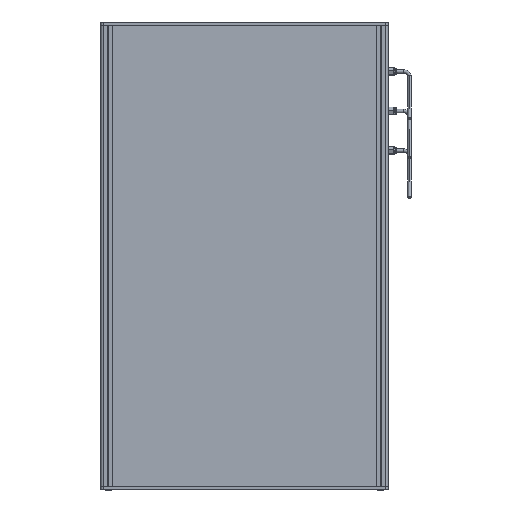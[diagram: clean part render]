
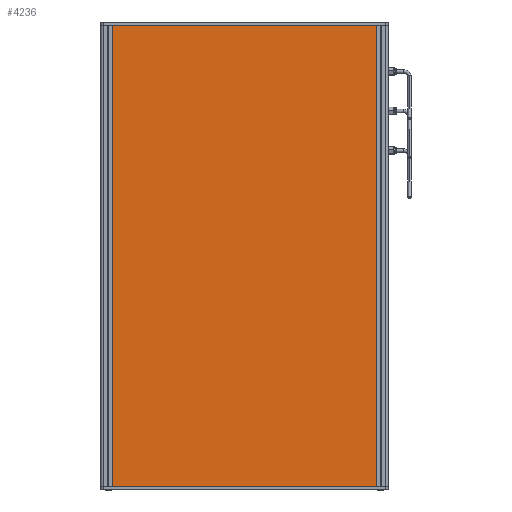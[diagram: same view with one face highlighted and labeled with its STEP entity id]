
A CAD part, front view. The second image highlights one B-rep face of the part: STEP entity #4236.
In plain terms, the highlighted planar face has unit normal (0, -1, 0) as drawn and (0, 0, 1) by its records, which use the part's own axes.
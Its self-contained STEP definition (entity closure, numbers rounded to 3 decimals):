
#188 = CARTESIAN_POINT ( 'NONE',  ( -9., 0., 0. ) ) ;
#1193 = DIRECTION ( 'NONE',  ( 0., -1., 0. ) ) ;
#1350 = ORIENTED_EDGE ( 'NONE', *, *, #5822, .T. ) ;
#1806 = CARTESIAN_POINT ( 'NONE',  ( -9., -700., 0. ) ) ;
#1836 = DIRECTION ( 'NONE',  ( 0., 0., -1. ) ) ;
#1908 = EDGE_CURVE ( 'NONE', #15172, #13936, #11813, .T. ) ;
#4132 = DIRECTION ( 'NONE',  ( 1., 0., 0. ) ) ;
#4236 = ADVANCED_FACE ( 'NONE', ( #8470 ), #7085, .F. ) ;
#4500 = CARTESIAN_POINT ( 'NONE',  ( -409., 0., 0. ) ) ;
#5668 = LINE ( 'NONE', #188, #11389 ) ;
#5822 = EDGE_CURVE ( 'NONE', #11176, #15172, #5668, .T. ) ;
#6781 = CARTESIAN_POINT ( 'NONE',  ( -9., -700., 0. ) ) ;
#7085 = PLANE ( 'NONE',  #15031 ) ;
#7485 = VECTOR ( 'NONE', #1193, 1000. ) ;
#7829 = ORIENTED_EDGE ( 'NONE', *, *, #9321, .T. ) ;
#8470 = FACE_OUTER_BOUND ( 'NONE', #10458, .T. ) ;
#8957 = CARTESIAN_POINT ( 'NONE',  ( -409., 0., 0. ) ) ;
#8989 = ORIENTED_EDGE ( 'NONE', *, *, #1908, .T. ) ;
#9046 = DIRECTION ( 'NONE',  ( -1., 0., 0. ) ) ;
#9321 = EDGE_CURVE ( 'NONE', #12252, #11176, #9496, .T. ) ;
#9496 = LINE ( 'NONE', #1806, #12392 ) ;
#9525 = CARTESIAN_POINT ( 'NONE',  ( 0., 0., 0. ) ) ;
#10083 = VECTOR ( 'NONE', #9046, 1000. ) ;
#10422 = CARTESIAN_POINT ( 'NONE',  ( -9., 0., 0. ) ) ;
#10458 = EDGE_LOOP ( 'NONE', ( #1350, #8989, #12794, #7829 ) ) ;
#11051 = EDGE_CURVE ( 'NONE', #13936, #12252, #15324, .T. ) ;
#11176 = VERTEX_POINT ( 'NONE', #6781 ) ;
#11389 = VECTOR ( 'NONE', #13510, 1000. ) ;
#11813 = LINE ( 'NONE', #10422, #10083 ) ;
#12252 = VERTEX_POINT ( 'NONE', #16283 ) ;
#12392 = VECTOR ( 'NONE', #4132, 1000. ) ;
#12794 = ORIENTED_EDGE ( 'NONE', *, *, #11051, .T. ) ;
#13510 = DIRECTION ( 'NONE',  ( 0., 1., 0. ) ) ;
#13936 = VERTEX_POINT ( 'NONE', #4500 ) ;
#14770 = DIRECTION ( 'NONE',  ( -1., 0., 0. ) ) ;
#15031 = AXIS2_PLACEMENT_3D ( 'NONE', #9525, #1836, #14770 ) ;
#15172 = VERTEX_POINT ( 'NONE', #16470 ) ;
#15324 = LINE ( 'NONE', #8957, #7485 ) ;
#16283 = CARTESIAN_POINT ( 'NONE',  ( -409., -700., 0. ) ) ;
#16470 = CARTESIAN_POINT ( 'NONE',  ( -9., 0., 0. ) ) ;
